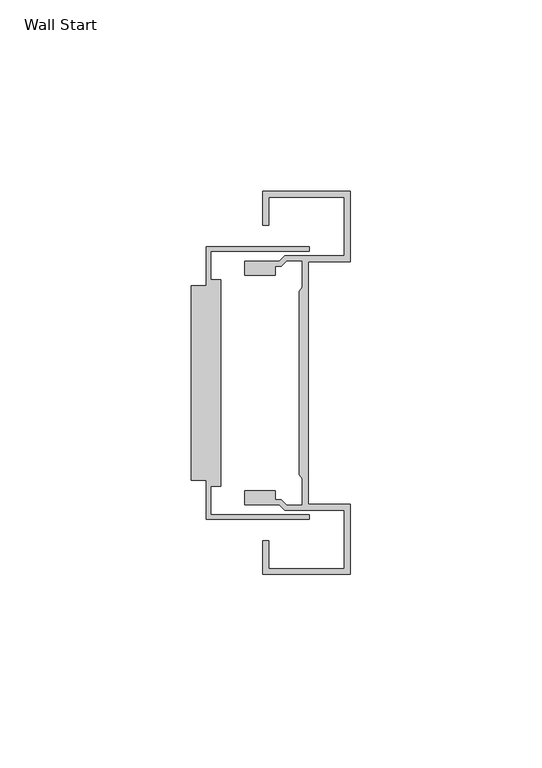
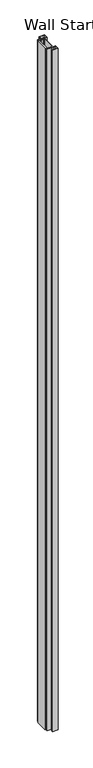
"""IFC4 building model written with IfcOpenShell, lengths in millimetres: proxy geometry, Connection-Landscape_Adjustable_Wall_Start-Teknion-Altos-FLKW : Wall Start."""

from ifc_helpers import new_model, si_unit, origin, origin_with_axes, place, context, project, spatial, polyline, outline, extrude, source, transform, mapped, element, save


def wall_start_dd3a8c03(model_context):
    return source(origin(), model_context, "Body", "SweptSolid", [
        extrude(outline(polyline([(13.9455218, 28.1305), (13.9455218, 31.7627), (22.8826895, 31.7627), (24.3558895, 33.2359), (39.9288, 33.2359), (39.9288, 48.476), (20.1168, 48.476), (20.1168, 41.237), (18.5928, 41.237), (18.5928, 50.0), (41.4528, 50.0), (41.4528, 31.7136405), (30.4546, 31.7136405), (30.4546, -31.7136405), (41.4528, -31.7136405), (41.4528, -50.0), (18.5928, -50.0), (18.5928, -41.237), (20.1168, -41.237), (20.1168, -48.476), (39.9288, -48.476), (39.9288, -33.2359), (24.3558895, -33.2359), (22.8826895, -31.7627), (13.9455218, -31.7627), (13.9455218, -28.1305), (21.8195218, -28.1305), (21.8195218, -30.4690893), (23.38513, -30.4690893), (24.8819408, -31.9659), (28.9306, -31.9659), (28.9306, -25.019), (28.1686, -23.9307512), (28.1686, 23.9307512), (28.9306, 25.019), (28.9306, 31.9659), (24.8819408, 31.9659), (23.38513, 30.4690893), (21.8195218, 30.4690893), (21.8195218, 28.1305), (13.9455218, 28.1305)])), origin_with_axes(), (0.0, 0.0, 1.0), 3048.0),
        extrude(outline(polyline([(0.0, -25.4), (0.0, 25.4), (3.81, 25.4), (3.81, 35.6362), (30.7693923, 35.6362), (30.7693923, 34.3662), (5.08, 34.3662), (5.08, 27.0002), (7.62, 27.0002), (7.62, -27.0002), (5.08, -27.0002), (5.08, -34.3662), (30.7693923, -34.3662), (30.7693923, -35.6362), (3.81, -35.6362), (3.81, -25.4), (0.0, -25.4)])), origin_with_axes(), (0.0, 0.0, 1.0), 3048.0),
    ])


if __name__ == "__main__":
    model = new_model("IFC4")
    model_context = context("Model", 3, world=origin())
    ifc_project = project(units=[si_unit("LENGTHUNIT", "METRE", prefix="MILLI")], contexts=[model_context])
    site = spatial("IfcSite", under=ifc_project)
    building = spatial("IfcBuilding", under=site)
    placement = place(None, origin())
    wall_start_shape = wall_start_dd3a8c03(model_context)
    element("IfcBuildingElementProxy", 1, Name="Connection-Landscape_Adjustable_Wall_Start-Teknion-Altos-FLKW : Wall Start", ObjectType="Connection-Landscape_Adjustable_Wall_Start-Teknion-Altos-FLKW : Wall Start", at=placement, inside=building, context=model_context, shape_type="MappedRepresentation", body=[
        mapped(wall_start_shape, transform((0.0, 0.0, 0.0), x_axis=(1.0, 0.0, 0.0), y_axis=(0.0, 1.0, 0.0), z_axis=(0.0, 0.0, 1.0))),
    ])
    save(model, "model.ifc")
